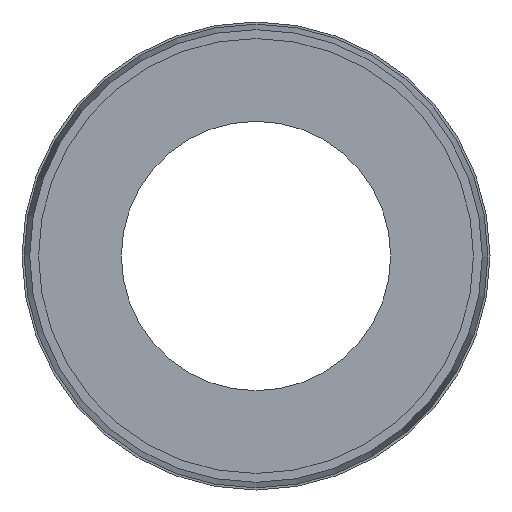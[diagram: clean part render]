
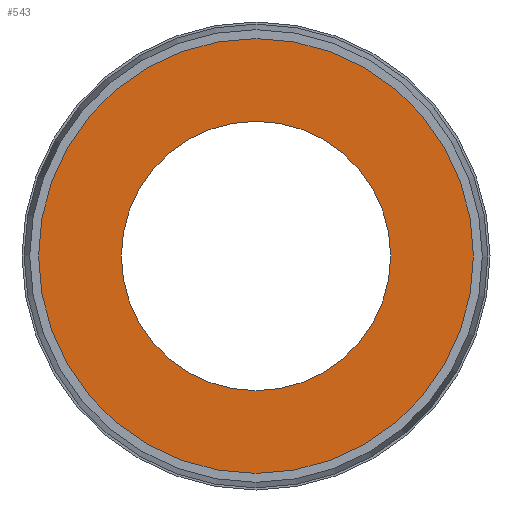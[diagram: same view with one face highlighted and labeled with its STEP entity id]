
A CAD part, front view. The second image highlights one B-rep face of the part: STEP entity #543.
In plain terms, the highlighted planar face has unit normal (0, -1, 0).
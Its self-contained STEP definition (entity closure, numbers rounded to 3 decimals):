
#92=PLANE('',#603);
#111=FACE_BOUND('',#193,.T.);
#148=FACE_OUTER_BOUND('',#192,.T.);
#192=EDGE_LOOP('',(#456));
#193=EDGE_LOOP('',(#457));
#227=CIRCLE('',#565,6.1);
#245=CIRCLE('',#604,9.85);
#262=VERTEX_POINT('',#817);
#296=VERTEX_POINT('',#938);
#309=EDGE_CURVE('',#262,#262,#227,.T.);
#359=EDGE_CURVE('',#296,#296,#245,.T.);
#456=ORIENTED_EDGE('',*,*,#359,.F.);
#457=ORIENTED_EDGE('',*,*,#309,.T.);
#543=ADVANCED_FACE('',(#148,#111),#92,.T.);
#565=AXIS2_PLACEMENT_3D('',#818,#643,#644);
#603=AXIS2_PLACEMENT_3D('',#937,#743,#744);
#604=AXIS2_PLACEMENT_3D('',#939,#745,#746);
#643=DIRECTION('center_axis',(0.,1.,0.));
#644=DIRECTION('ref_axis',(-1.,0.,0.));
#743=DIRECTION('center_axis',(0.,-1.,0.));
#744=DIRECTION('ref_axis',(0.,0.,-1.));
#745=DIRECTION('center_axis',(0.,1.,0.));
#746=DIRECTION('ref_axis',(1.,0.,0.));
#817=CARTESIAN_POINT('',(6.1,0.,0.));
#818=CARTESIAN_POINT('Origin',(0.,0.,0.));
#937=CARTESIAN_POINT('Origin',(-9.85,0.,0.));
#938=CARTESIAN_POINT('',(-9.85,0.,0.));
#939=CARTESIAN_POINT('Origin',(0.,0.,0.));
